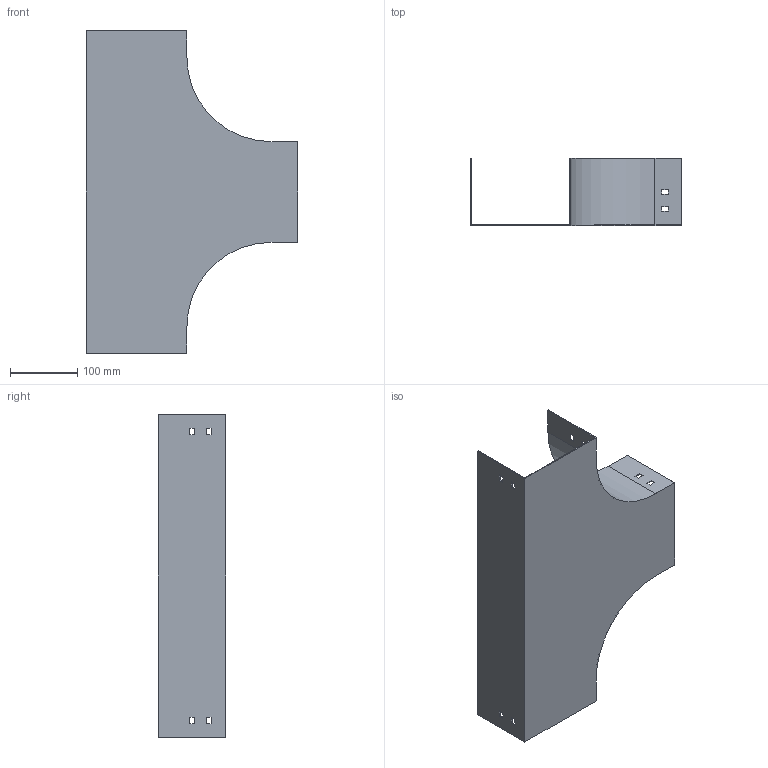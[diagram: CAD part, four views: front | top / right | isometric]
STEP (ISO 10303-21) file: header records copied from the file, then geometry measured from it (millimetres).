
FILE_DESCRIPTION (( 'STEP AP214' ), '1' );
FILE_NAME ('PT_151.step', '2025-07-16T09:23:23', ( '' ), ( '' ), 'SwSTEP 2.0', 'SolidWorks 2023', '' );
FILE_SCHEMA (( 'AUTOMOTIVE_DESIGN' ));
Length unit declared in the file: millimetre
Products named in the file (1): PT_151
Bounding box: 315 x 100 x 480 mm (x, y, z)
Volume: 306853.9 mm3; surface area: 412861.1 mm2
Topology: 1 solids, 1 shells, 70 faces, 204 edges, 136 vertices
Faces by surface type: plane 66, cylinder 4
Entity records: 2347 total; most frequent: CARTESIAN_POINT 411, ORIENTED_EDGE 408, DIRECTION 354, EDGE_CURVE 204, VECTOR 196, LINE 196, VERTEX_POINT 136, EDGE_LOOP 94
